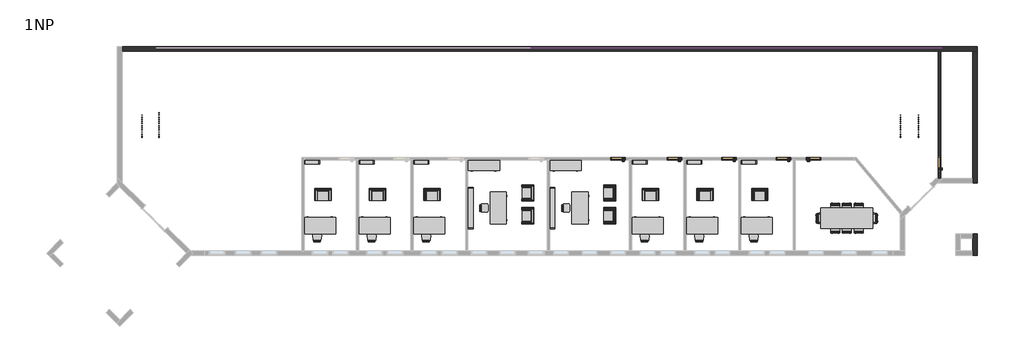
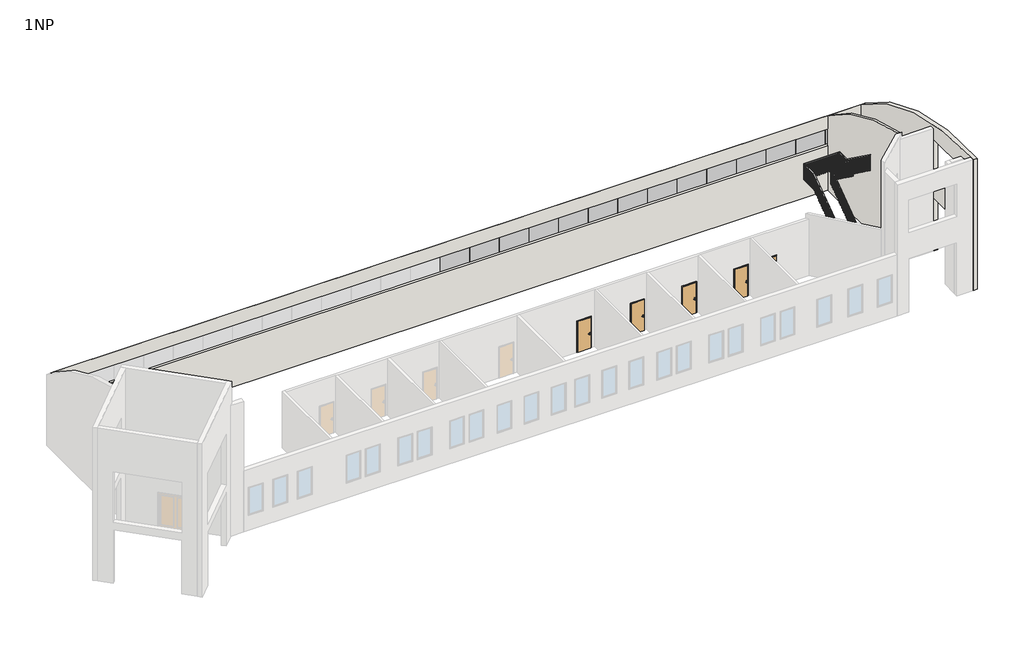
# One storey, part 3 of 3: 45 furniture elements, 14 plates, 6 doors, 4 railings, 3 walls.
"""IFC4 building model written with IfcOpenShell, lengths in millimetres."""

from ifc_helpers import new_model, si_unit, point, frame, frame_2d, origin, place, context, project, spatial, polyline, circle_curve, trimmed, segment, composite_curve, outline, extrude, transform, mapped, element, save
from ifc_brep_helpers import plane_surface, cylinder_surface, advanced_brep
from components import door_900_x_2000_c64c60ef, door_900_x_2000_4c66a93d, chair_desk_4_chair_task_arms_3b363349, chair_desk_5_chair_task_b7f3823b, m_chair_corbu_m_chair_corbu_2764bdef, m_chair_desk_desk_chair_ccc35c8f, m_credenza_1830_x_0610mm_1080a9db, m_desk_1830_x_915mm_d81ff609, m_shelving_0915_x_0254_x_1830mm_1d5e155e, m_shelving_2440_x_0305_x_2134mm_59c1a9e4, table_conference_w_chairs_1200_x_3050mm_930714f4, system_panel_glazed_e7f7cd54, system_panel_glazed_2bdfee25, railing_1100mm_7da75a1e, railing_1100mm_276dff7a, railing_1100mm_749a05fc, railing_1100mm_07c990a1

model = new_model("IFC4")

# Units and contexts
model_context = context("Model", 3, world=origin())
ifc_project = project(units=[si_unit("LENGTHUNIT", "METRE", prefix="MILLI")], contexts=[model_context])

# Site, building, storey
site = spatial("IfcSite", under=ifc_project)
building = spatial("IfcBuilding", under=site)
storey = spatial("IfcBuildingStorey", under=building, Name="1NP", Elevation=0.0)

# Doors
placement = place(None, origin())
door_900_x_2000_shape = door_900_x_2000_c64c60ef(model_context)
element("IfcDoor", 1, ObjectType="Jednokridle oboustrana zaruben : 900 x 2000", at=placement, inside=storey, context=model_context, shape_type="MappedRepresentation", body=[
    mapped(door_900_x_2000_shape, transform((36489.1755273, 462.5551306, 0.0), x_axis=(0.0, -1.0, 0.0), y_axis=(1.0, 0.0, 0.0), z_axis=(0.0, 0.0, 1.0))),
])
element("IfcDoor", 2, ObjectType="Jednokridle oboustrana zaruben : 900 x 2000", at=placement, inside=storey, context=model_context, shape_type="MappedRepresentation", body=[
    mapped(door_900_x_2000_shape, transform((29095.9255273, 791.5551306, 0.0), x_axis=(-1.0, 0.0, 0.0), y_axis=(0.0, -1.0, 0.0), z_axis=(0.0, 0.0, 1.0))),
])
door_900_x_2000_2_shape = door_900_x_2000_4c66a93d(model_context)
element("IfcDoor", 3, ObjectType="Jednokridle oboustrana zaruben : 900 x 2000", at=placement, inside=storey, context=model_context, shape_type="MappedRepresentation", body=[
    mapped(door_900_x_2000_2_shape, transform((24182.4255273, 791.5551306, 0.0), x_axis=(1.0, 0.0, 0.0), y_axis=(0.0, 1.0, 0.0), z_axis=(0.0, 0.0, 1.0))),
])
element("IfcDoor", 4, ObjectType="Jednokridle oboustrana zaruben : 900 x 2000", at=placement, inside=storey, context=model_context, shape_type="MappedRepresentation", body=[
    mapped(door_900_x_2000_2_shape, transform((27382.4255273, 791.5551306, 0.0), x_axis=(1.0, 0.0, 0.0), y_axis=(0.0, 1.0, 0.0), z_axis=(0.0, 0.0, 1.0))),
])
element("IfcDoor", 5, ObjectType="Jednokridle oboustrana zaruben : 900 x 2000", at=placement, inside=storey, context=model_context, shape_type="MappedRepresentation", body=[
    mapped(door_900_x_2000_2_shape, transform((20982.4255273, 791.5551306, 0.0), x_axis=(1.0, 0.0, 0.0), y_axis=(0.0, 1.0, 0.0), z_axis=(0.0, 0.0, 1.0))),
])
element("IfcDoor", 6, ObjectType="Jednokridle oboustrana zaruben : 900 x 2000", at=placement, inside=storey, context=model_context, shape_type="MappedRepresentation", body=[
    mapped(door_900_x_2000_2_shape, transform((17682.4255273, 791.5551306, 0.0), x_axis=(1.0, 0.0, 0.0), y_axis=(0.0, 1.0, 0.0), z_axis=(0.0, 0.0, 1.0))),
])

# Furniture
chair_desk_4_chair_task_arms_shape = chair_desk_4_chair_task_arms_3b363349(model_context)
element("IfcFurniture", 7, ObjectType="Chair - Desk (4) : Chair-Task Arms", at=placement, inside=storey, context=model_context, shape_type="MappedRepresentation", body=[
    mapped(chair_desk_4_chair_task_arms_shape, transform((32615.6301008, -2847.5591131, 0.0), x_axis=(0.0, 1.0, 0.0), y_axis=(-1.0, 0.0, 0.0), z_axis=(0.0, 0.0, 1.0))),
])
element("IfcFurniture", 8, ObjectType="Chair - Desk (4) : Chair-Task Arms", at=placement, inside=storey, context=model_context, shape_type="MappedRepresentation", body=[
    mapped(chair_desk_4_chair_task_arms_shape, transform((29527.7382975, -2565.5774738, 0.0), x_axis=(0.0, -1.0000000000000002, 0.0), y_axis=(1.0000000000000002, 0.0, 0.0), z_axis=(0.0, 0.0, 1.0))),
])
chair_desk_5_chair_task_shape = chair_desk_5_chair_task_b7f3823b(model_context)
element("IfcFurniture", 9, ObjectType="Chair - Desk (5) : Chair-Task", at=placement, inside=storey, context=model_context, shape_type="MappedRepresentation", body=[
    mapped(chair_desk_5_chair_task_shape, transform((31897.6750188, -2087.6223918, 0.0), x_axis=(-1.0, 0.0, 0.0), y_axis=(0.0, -1.0, 0.0), z_axis=(0.0, 0.0, 1.0))),
])
element("IfcFurniture", 10, ObjectType="Chair - Desk (5) : Chair-Task", at=placement, inside=storey, context=model_context, shape_type="MappedRepresentation", body=[
    mapped(chair_desk_5_chair_task_shape, transform((31615.6933794, -3325.5141951, 0.0), x_axis=(1.0, 0.0, 0.0), y_axis=(0.0, 1.0, 0.0), z_axis=(0.0, 0.0, 1.0))),
])
element("IfcFurniture", 11, ObjectType="Chair - Desk (5) : Chair-Task", at=placement, inside=storey, context=model_context, shape_type="MappedRepresentation", body=[
    mapped(chair_desk_5_chair_task_shape, transform((30527.9250188, -2087.6223918, 0.0), x_axis=(-1.0, 0.0, 0.0), y_axis=(0.0, -1.0, 0.0), z_axis=(0.0, 0.0, 1.0))),
])
element("IfcFurniture", 12, ObjectType="Chair - Desk (5) : Chair-Task", at=placement, inside=storey, context=model_context, shape_type="MappedRepresentation", body=[
    mapped(chair_desk_5_chair_task_shape, transform((30245.9433794, -3325.5141951, 0.0), x_axis=(1.0, 0.0, 0.0), y_axis=(0.0, 1.0, 0.0), z_axis=(0.0, 0.0, 1.0))),
])
element("IfcFurniture", 13, ObjectType="Chair - Desk (5) : Chair-Task", at=placement, inside=storey, context=model_context, shape_type="MappedRepresentation", body=[
    mapped(chair_desk_5_chair_task_shape, transform((31212.8000188, -2087.6223918, 0.0), x_axis=(-1.0, 0.0, 0.0), y_axis=(0.0, -1.0, 0.0), z_axis=(0.0, 0.0, 1.0))),
])
element("IfcFurniture", 14, ObjectType="Chair - Desk (5) : Chair-Task", at=placement, inside=storey, context=model_context, shape_type="MappedRepresentation", body=[
    mapped(chair_desk_5_chair_task_shape, transform((30930.8183794, -3325.5141951, 0.0), x_axis=(1.0, 0.0, 0.0), y_axis=(0.0, 1.0, 0.0), z_axis=(0.0, 0.0, 1.0))),
])
m_chair_corbu_m_chair_corbu_shape = m_chair_corbu_m_chair_corbu_2764bdef(model_context)
element("IfcFurniture", 15, ObjectType="M_Chair-Corbu : M_Chair-Corbu", at=placement, inside=storey, context=model_context, shape_type="MappedRepresentation", body=[
    mapped(m_chair_corbu_m_chair_corbu_shape, transform((6189.3517568, -1787.3719186, 0.0), x_axis=(1.0, 0.0, 0.0), y_axis=(0.0, 1.0, 0.0), z_axis=(0.0, 0.0, 1.0))),
])
element("IfcFurniture", 16, ObjectType="M_Chair-Corbu : M_Chair-Corbu", at=placement, inside=storey, context=model_context, shape_type="MappedRepresentation", body=[
    mapped(m_chair_corbu_m_chair_corbu_shape, transform((-210.6482432, -1787.3719186, 0.0), x_axis=(1.0, 0.0, 0.0), y_axis=(0.0, 1.0, 0.0), z_axis=(0.0, 0.0, 1.0))),
])
element("IfcFurniture", 17, ObjectType="M_Chair-Corbu : M_Chair-Corbu", at=placement, inside=storey, context=model_context, shape_type="MappedRepresentation", body=[
    mapped(m_chair_corbu_m_chair_corbu_shape, transform((2989.3517568, -1787.3719186, 0.0), x_axis=(1.0, 0.0, 0.0), y_axis=(0.0, 1.0, 0.0), z_axis=(0.0, 0.0, 1.0))),
])
element("IfcFurniture", 18, ObjectType="M_Chair-Corbu : M_Chair-Corbu", at=placement, inside=storey, context=model_context, shape_type="MappedRepresentation", body=[
    mapped(m_chair_corbu_m_chair_corbu_shape, transform((22189.3517568, -1787.3719186, 0.0), x_axis=(1.0, 0.0, 0.0), y_axis=(0.0, 1.0, 0.0), z_axis=(0.0, 0.0, 1.0))),
])
element("IfcFurniture", 19, ObjectType="M_Chair-Corbu : M_Chair-Corbu", at=placement, inside=storey, context=model_context, shape_type="MappedRepresentation", body=[
    mapped(m_chair_corbu_m_chair_corbu_shape, transform((25389.3517568, -1787.3719186, 0.0), x_axis=(1.0, 0.0, 0.0), y_axis=(0.0, 1.0, 0.0), z_axis=(0.0, 0.0, 1.0))),
])
element("IfcFurniture", 20, ObjectType="M_Chair-Corbu : M_Chair-Corbu", at=placement, inside=storey, context=model_context, shape_type="MappedRepresentation", body=[
    mapped(m_chair_corbu_m_chair_corbu_shape, transform((11895.9484781, -647.2210989, 0.0), x_axis=(0.0, -1.0, 0.0), y_axis=(1.0, 0.0, 0.0), z_axis=(0.0, 0.0, 1.0))),
])
element("IfcFurniture", 21, ObjectType="M_Chair-Corbu : M_Chair-Corbu", at=placement, inside=storey, context=model_context, shape_type="MappedRepresentation", body=[
    mapped(m_chair_corbu_m_chair_corbu_shape, transform((18989.3517568, -1787.3719186, 0.0), x_axis=(1.0, 0.0, 0.0), y_axis=(0.0, 1.0, 0.0), z_axis=(0.0, 0.0, 1.0))),
])
element("IfcFurniture", 22, ObjectType="M_Chair-Corbu : M_Chair-Corbu", at=placement, inside=storey, context=model_context, shape_type="MappedRepresentation", body=[
    mapped(m_chair_corbu_m_chair_corbu_shape, transform((11895.9484781, -1992.4210989, 0.0), x_axis=(0.0, -1.0, 0.0), y_axis=(1.0, 0.0, 0.0), z_axis=(0.0, 0.0, 1.0))),
])
element("IfcFurniture", 23, ObjectType="M_Chair-Corbu : M_Chair-Corbu", at=placement, inside=storey, context=model_context, shape_type="MappedRepresentation", body=[
    mapped(m_chair_corbu_m_chair_corbu_shape, transform((16695.9484781, -647.2210989, 0.0), x_axis=(0.0, -1.0, 0.0), y_axis=(1.0, 0.0, 0.0), z_axis=(0.0, 0.0, 1.0))),
])
element("IfcFurniture", 24, ObjectType="M_Chair-Corbu : M_Chair-Corbu", at=placement, inside=storey, context=model_context, shape_type="MappedRepresentation", body=[
    mapped(m_chair_corbu_m_chair_corbu_shape, transform((16695.9484781, -1992.4210989, 0.0), x_axis=(0.0, -1.0, 0.0), y_axis=(1.0, 0.0, 0.0), z_axis=(0.0, 0.0, 1.0))),
])
m_chair_desk_desk_chair_shape = m_chair_desk_desk_chair_ccc35c8f(model_context)
element("IfcFurniture", 25, ObjectType="M_Chair-Desk : Desk Chair", at=placement, inside=storey, context=model_context, shape_type="MappedRepresentation", body=[
    mapped(m_chair_desk_desk_chair_shape, transform((19.9255273, -4017.6948694, 0.0), x_axis=(1.0, 0.0, 0.0), y_axis=(0.0, 1.0, 0.0), z_axis=(0.0, 0.0, 1.0))),
])
element("IfcFurniture", 26, ObjectType="M_Chair-Desk : Desk Chair", at=placement, inside=storey, context=model_context, shape_type="MappedRepresentation", body=[
    mapped(m_chair_desk_desk_chair_shape, transform((3219.9255273, -4017.6948694, 0.0), x_axis=(1.0, 0.0, 0.0), y_axis=(0.0, 1.0, 0.0), z_axis=(0.0, 0.0, 1.0))),
])
element("IfcFurniture", 27, ObjectType="M_Chair-Desk : Desk Chair", at=placement, inside=storey, context=model_context, shape_type="MappedRepresentation", body=[
    mapped(m_chair_desk_desk_chair_shape, transform((6419.9255273, -4017.6948694, 0.0), x_axis=(1.0, 0.0, 0.0), y_axis=(0.0, 1.0, 0.0), z_axis=(0.0, 0.0, 1.0))),
])
element("IfcFurniture", 28, ObjectType="M_Chair-Desk : Desk Chair", at=placement, inside=storey, context=model_context, shape_type="MappedRepresentation", body=[
    mapped(m_chair_desk_desk_chair_shape, transform((22419.9255273, -4017.6948694, 0.0), x_axis=(1.0, 0.0, 0.0), y_axis=(0.0, 1.0, 0.0), z_axis=(0.0, 0.0, 1.0))),
])
element("IfcFurniture", 29, ObjectType="M_Chair-Desk : Desk Chair", at=placement, inside=storey, context=model_context, shape_type="MappedRepresentation", body=[
    mapped(m_chair_desk_desk_chair_shape, transform((25619.9255273, -4017.6948694, 0.0), x_axis=(1.0, 0.0, 0.0), y_axis=(0.0, 1.0, 0.0), z_axis=(0.0, 0.0, 1.0))),
])
element("IfcFurniture", 30, ObjectType="M_Chair-Desk : Desk Chair", at=placement, inside=storey, context=model_context, shape_type="MappedRepresentation", body=[
    mapped(m_chair_desk_desk_chair_shape, transform((9635.1978774, -2107.9948694, 0.0), x_axis=(0.0, -1.0, 0.0), y_axis=(1.0, 0.0, 0.0), z_axis=(0.0, 0.0, 1.0))),
])
element("IfcFurniture", 31, ObjectType="M_Chair-Desk : Desk Chair", at=placement, inside=storey, context=model_context, shape_type="MappedRepresentation", body=[
    mapped(m_chair_desk_desk_chair_shape, transform((19219.9255273, -4017.6948694, 0.0), x_axis=(1.0, 0.0, 0.0), y_axis=(0.0, 1.0, 0.0), z_axis=(0.0, 0.0, 1.0))),
])
element("IfcFurniture", 32, ObjectType="M_Chair-Desk : Desk Chair", at=placement, inside=storey, context=model_context, shape_type="MappedRepresentation", body=[
    mapped(m_chair_desk_desk_chair_shape, transform((14435.1978774, -2107.9948694, 0.0), x_axis=(0.0, -1.0, 0.0), y_axis=(1.0, 0.0, 0.0), z_axis=(0.0, 0.0, 1.0))),
])
m_credenza_1830_x_0610mm_shape = m_credenza_1830_x_0610mm_1080a9db(model_context)
element("IfcFurniture", 33, ObjectType="M_Credenza : 1830 x 0610mm", at=placement, inside=storey, context=model_context, shape_type="MappedRepresentation", body=[
    mapped(m_credenza_1830_x_0610mm_shape, transform((9713.881265, 412.7248027, 0.0), x_axis=(1.0, 0.0, 0.0), y_axis=(0.0, 1.0, 0.0), z_axis=(0.0, 0.0, 1.0))),
])
element("IfcFurniture", 34, ObjectType="M_Credenza : 1830 x 0610mm", at=placement, inside=storey, context=model_context, shape_type="MappedRepresentation", body=[
    mapped(m_credenza_1830_x_0610mm_shape, transform((14513.881265, 412.7248027, 0.0), x_axis=(1.0, 0.0, 0.0), y_axis=(0.0, 1.0, 0.0), z_axis=(0.0, 0.0, 1.0))),
])
m_desk_1830_x_915mm_shape = m_desk_1830_x_915mm_d81ff609(model_context)
element("IfcFurniture", 35, ObjectType="M_Desk : 1830 x 915mm", at=placement, inside=storey, context=model_context, shape_type="MappedRepresentation", body=[
    mapped(m_desk_1830_x_915mm_shape, transform((-741.5744727, -3592.6948694, 0.0), x_axis=(1.0, 0.0, 0.0), y_axis=(0.0, 1.0, 0.0), z_axis=(0.0, 0.0, 1.0))),
])
element("IfcFurniture", 36, ObjectType="M_Desk : 1830 x 915mm", at=placement, inside=storey, context=model_context, shape_type="MappedRepresentation", body=[
    mapped(m_desk_1830_x_915mm_shape, transform((2458.4255273, -3592.6948694, 0.0), x_axis=(1.0, 0.0, 0.0), y_axis=(0.0, 1.0, 0.0), z_axis=(0.0, 0.0, 1.0))),
])
element("IfcFurniture", 37, ObjectType="M_Desk : 1830 x 915mm", at=placement, inside=storey, context=model_context, shape_type="MappedRepresentation", body=[
    mapped(m_desk_1830_x_915mm_shape, transform((5658.4255273, -3592.6948694, 0.0), x_axis=(1.0, 0.0, 0.0), y_axis=(0.0, 1.0, 0.0), z_axis=(0.0, 0.0, 1.0))),
])
element("IfcFurniture", 38, ObjectType="M_Desk : 1830 x 915mm", at=placement, inside=storey, context=model_context, shape_type="MappedRepresentation", body=[
    mapped(m_desk_1830_x_915mm_shape, transform((21658.4255273, -3592.6948694, 0.0), x_axis=(1.0, 0.0, 0.0), y_axis=(0.0, 1.0, 0.0), z_axis=(0.0, 0.0, 1.0))),
])
element("IfcFurniture", 39, ObjectType="M_Desk : 1830 x 915mm", at=placement, inside=storey, context=model_context, shape_type="MappedRepresentation", body=[
    mapped(m_desk_1830_x_915mm_shape, transform((24858.4255273, -3592.6948694, 0.0), x_axis=(1.0, 0.0, 0.0), y_axis=(0.0, 1.0, 0.0), z_axis=(0.0, 0.0, 1.0))),
])
element("IfcFurniture", 40, ObjectType="M_Desk : 1830 x 915mm", at=placement, inside=storey, context=model_context, shape_type="MappedRepresentation", body=[
    mapped(m_desk_1830_x_915mm_shape, transform((10176.162903, -1192.9948694, 0.0), x_axis=(0.0, -1.0, 0.0), y_axis=(1.0, 0.0, 0.0), z_axis=(0.0, 0.0, 1.0))),
])
element("IfcFurniture", 41, ObjectType="M_Desk : 1830 x 915mm", at=placement, inside=storey, context=model_context, shape_type="MappedRepresentation", body=[
    mapped(m_desk_1830_x_915mm_shape, transform((18458.4255273, -3592.6948694, 0.0), x_axis=(1.0, 0.0, 0.0), y_axis=(0.0, 1.0, 0.0), z_axis=(0.0, 0.0, 1.0))),
])
element("IfcFurniture", 42, ObjectType="M_Desk : 1830 x 915mm", at=placement, inside=storey, context=model_context, shape_type="MappedRepresentation", body=[
    mapped(m_desk_1830_x_915mm_shape, transform((14976.162903, -1192.9948694, 0.0), x_axis=(0.0, -1.0, 0.0), y_axis=(1.0, 0.0, 0.0), z_axis=(0.0, 0.0, 1.0))),
])
m_shelving_0915_x_0254_x_1830mm_shape = m_shelving_0915_x_0254_x_1830mm_1d5e155e(model_context)
element("IfcFurniture", 43, ObjectType="M_Shelving : 0915 x 0254 x 1830mm", at=placement, inside=storey, context=model_context, shape_type="MappedRepresentation", body=[
    mapped(m_shelving_0915_x_0254_x_1830mm_shape, transform((-284.0744727, 290.5051306, 0.0), x_axis=(-1.0, 0.0, 0.0), y_axis=(0.0, -1.0, 0.0), z_axis=(0.0, 0.0, 1.0))),
])
element("IfcFurniture", 44, ObjectType="M_Shelving : 0915 x 0254 x 1830mm", at=placement, inside=storey, context=model_context, shape_type="MappedRepresentation", body=[
    mapped(m_shelving_0915_x_0254_x_1830mm_shape, transform((2915.9255273, 290.5051306, 0.0), x_axis=(-1.0, 0.0, 0.0), y_axis=(0.0, -1.0, 0.0), z_axis=(0.0, 0.0, 1.0))),
])
element("IfcFurniture", 45, ObjectType="M_Shelving : 0915 x 0254 x 1830mm", at=placement, inside=storey, context=model_context, shape_type="MappedRepresentation", body=[
    mapped(m_shelving_0915_x_0254_x_1830mm_shape, transform((6115.9255273, 290.5051306, 0.0), x_axis=(-1.0, 0.0, 0.0), y_axis=(0.0, -1.0, 0.0), z_axis=(0.0, 0.0, 1.0))),
])
element("IfcFurniture", 46, ObjectType="M_Shelving : 0915 x 0254 x 1830mm", at=placement, inside=storey, context=model_context, shape_type="MappedRepresentation", body=[
    mapped(m_shelving_0915_x_0254_x_1830mm_shape, transform((22115.9255273, 290.5051306, 0.0), x_axis=(-1.0, 0.0, 0.0), y_axis=(0.0, -1.0, 0.0), z_axis=(0.0, 0.0, 1.0))),
])
element("IfcFurniture", 47, ObjectType="M_Shelving : 0915 x 0254 x 1830mm", at=placement, inside=storey, context=model_context, shape_type="MappedRepresentation", body=[
    mapped(m_shelving_0915_x_0254_x_1830mm_shape, transform((25315.9255273, 290.5051306, 0.0), x_axis=(-1.0, 0.0, 0.0), y_axis=(0.0, -1.0, 0.0), z_axis=(0.0, 0.0, 1.0))),
])
element("IfcFurniture", 48, ObjectType="M_Shelving : 0915 x 0254 x 1830mm", at=placement, inside=storey, context=model_context, shape_type="MappedRepresentation", body=[
    mapped(m_shelving_0915_x_0254_x_1830mm_shape, transform((18915.9255273, 290.5051306, 0.0), x_axis=(-1.0, 0.0, 0.0), y_axis=(0.0, -1.0, 0.0), z_axis=(0.0, 0.0, 1.0))),
])
m_shelving_2440_x_0305_x_2134mm_shape = m_shelving_2440_x_0305_x_2134mm_59c1a9e4(model_context)
element("IfcFurniture", 49, ObjectType="M_Shelving : 2440 x 0305 x 2134mm", at=placement, inside=storey, context=model_context, shape_type="MappedRepresentation", body=[
    mapped(m_shelving_2440_x_0305_x_2134mm_shape, transform((9315.7255273, -2107.9948694, 0.0), x_axis=(0.0, -1.0, 0.0), y_axis=(1.0, 0.0, 0.0), z_axis=(0.0, 0.0, 1.0))),
])
element("IfcFurniture", 50, ObjectType="M_Shelving : 2440 x 0305 x 2134mm", at=placement, inside=storey, context=model_context, shape_type="MappedRepresentation", body=[
    mapped(m_shelving_2440_x_0305_x_2134mm_shape, transform((14115.7255273, -2107.9948694, 0.0), x_axis=(0.0, -1.0, 0.0), y_axis=(1.0, 0.0, 0.0), z_axis=(0.0, 0.0, 1.0))),
])
table_conference_w_chairs_1200_x_3050mm_shape = table_conference_w_chairs_1200_x_3050mm_930714f4(model_context)
element("IfcFurniture", 51, ObjectType="Table - Conference w Chairs : 1200 x 3050mm", at=placement, inside=storey, context=model_context, shape_type="MappedRepresentation", body=[
    mapped(table_conference_w_chairs_1200_x_3050mm_shape, transform((31071.6841991, -2706.5682935, 0.0), x_axis=(-1.0, 0.0, 0.0), y_axis=(0.0, -1.0, 0.0), z_axis=(0.0, 0.0, 1.0))),
])

# Plates
system_panel_glazed_shape = system_panel_glazed_e7f7cd54(model_context)
element("IfcPlate", 52, ObjectType="System Panel : Glazed", at=placement, inside=storey, context=model_context, shape_type="MappedRepresentation", body=[
    mapped(system_panel_glazed_shape, transform((13464.1755273, 7241.5551306, 2916.2475184), x_axis=(1.0, 0.0, 0.0), y_axis=(0.0, 1.0, 0.0), z_axis=(0.0, 0.0, 1.0))),
])
element("IfcPlate", 53, ObjectType="System Panel : Glazed", at=placement, inside=storey, context=model_context, shape_type="MappedRepresentation", body=[
    mapped(system_panel_glazed_shape, transform((15294.1755273, 7241.5551306, 2916.2475184), x_axis=(1.0, 0.0, 0.0), y_axis=(0.0, 1.0, 0.0), z_axis=(0.0, 0.0, 1.0))),
])
element("IfcPlate", 54, ObjectType="System Panel : Glazed", at=placement, inside=storey, context=model_context, shape_type="MappedRepresentation", body=[
    mapped(system_panel_glazed_shape, transform((17124.1755273, 7241.5551306, 2916.2475184), x_axis=(1.0, 0.0, 0.0), y_axis=(0.0, 1.0, 0.0), z_axis=(0.0, 0.0, 1.0))),
])
element("IfcPlate", 55, ObjectType="System Panel : Glazed", at=placement, inside=storey, context=model_context, shape_type="MappedRepresentation", body=[
    mapped(system_panel_glazed_shape, transform((18954.1755273, 7241.5551306, 2916.2475184), x_axis=(1.0, 0.0, 0.0), y_axis=(0.0, 1.0, 0.0), z_axis=(0.0, 0.0, 1.0))),
])
element("IfcPlate", 56, ObjectType="System Panel : Glazed", at=placement, inside=storey, context=model_context, shape_type="MappedRepresentation", body=[
    mapped(system_panel_glazed_shape, transform((20784.1755273, 7241.5551306, 2916.2475184), x_axis=(1.0, 0.0, 0.0), y_axis=(0.0, 1.0, 0.0), z_axis=(0.0, 0.0, 1.0))),
])
element("IfcPlate", 57, ObjectType="System Panel : Glazed", at=placement, inside=storey, context=model_context, shape_type="MappedRepresentation", body=[
    mapped(system_panel_glazed_shape, transform((22614.1755273, 7241.5551306, 2916.2475184), x_axis=(1.0, 0.0, 0.0), y_axis=(0.0, 1.0, 0.0), z_axis=(0.0, 0.0, 1.0))),
])
element("IfcPlate", 58, ObjectType="System Panel : Glazed", at=placement, inside=storey, context=model_context, shape_type="MappedRepresentation", body=[
    mapped(system_panel_glazed_shape, transform((24444.1755273, 7241.5551306, 2916.2475184), x_axis=(1.0, 0.0, 0.0), y_axis=(0.0, 1.0, 0.0), z_axis=(0.0, 0.0, 1.0))),
])
element("IfcPlate", 59, ObjectType="System Panel : Glazed", at=placement, inside=storey, context=model_context, shape_type="MappedRepresentation", body=[
    mapped(system_panel_glazed_shape, transform((26274.1755273, 7241.5551306, 2916.2475184), x_axis=(1.0, 0.0, 0.0), y_axis=(0.0, 1.0, 0.0), z_axis=(0.0, 0.0, 1.0))),
])
element("IfcPlate", 60, ObjectType="System Panel : Glazed", at=placement, inside=storey, context=model_context, shape_type="MappedRepresentation", body=[
    mapped(system_panel_glazed_shape, transform((28104.1755273, 7241.5551306, 2916.2475184), x_axis=(1.0, 0.0, 0.0), y_axis=(0.0, 1.0, 0.0), z_axis=(0.0, 0.0, 1.0))),
])
element("IfcPlate", 61, ObjectType="System Panel : Glazed", at=placement, inside=storey, context=model_context, shape_type="MappedRepresentation", body=[
    mapped(system_panel_glazed_shape, transform((29934.1755273, 7241.5551306, 2916.2475184), x_axis=(1.0, 0.0, 0.0), y_axis=(0.0, 1.0, 0.0), z_axis=(0.0, 0.0, 1.0))),
])
element("IfcPlate", 62, ObjectType="System Panel : Glazed", at=placement, inside=storey, context=model_context, shape_type="MappedRepresentation", body=[
    mapped(system_panel_glazed_shape, transform((31764.1755273, 7241.5551306, 2916.2475184), x_axis=(1.0, 0.0, 0.0), y_axis=(0.0, 1.0, 0.0), z_axis=(0.0, 0.0, 1.0))),
])
element("IfcPlate", 63, ObjectType="System Panel : Glazed", at=placement, inside=storey, context=model_context, shape_type="MappedRepresentation", body=[
    mapped(system_panel_glazed_shape, transform((33594.1755273, 7241.5551306, 2916.2475184), x_axis=(1.0, 0.0, 0.0), y_axis=(0.0, 1.0, 0.0), z_axis=(0.0, 0.0, 1.0))),
])
element("IfcPlate", 64, ObjectType="System Panel : Glazed", at=placement, inside=storey, context=model_context, shape_type="MappedRepresentation", body=[
    mapped(system_panel_glazed_shape, transform((35424.1755273, 7241.5551306, 2916.2475184), x_axis=(1.0, 0.0, 0.0), y_axis=(0.0, 1.0, 0.0), z_axis=(0.0, 0.0, 1.0))),
])
system_panel_glazed_2_shape = system_panel_glazed_2bdfee25(model_context)
element("IfcPlate", 65, ObjectType="System Panel : Glazed", at=placement, inside=storey, context=model_context, shape_type="MappedRepresentation", body=[
    mapped(system_panel_glazed_2_shape, transform((36464.1755273, 7241.5551306, 2916.2475184), x_axis=(1.0, 0.0, 0.0), y_axis=(0.0, 1.0, 0.0), z_axis=(0.0, 0.0, 1.0))),
])

# Railings
railing_1100mm_shape = railing_1100mm_7da75a1e(model_context)
element("IfcRailing", 66, ObjectType="1100mm", at=placement, inside=storey, context=model_context, shape_type="MappedRepresentation", body=[
    mapped(railing_1100mm_shape, transform((0.0, 0.0, 0.0), x_axis=(1.0, 0.0, 0.0), y_axis=(0.0, 1.0, 0.0), z_axis=(0.0, 0.0, 1.0))),
])
railing_1100mm_2_shape = railing_1100mm_276dff7a(model_context)
element("IfcRailing", 67, ObjectType="1100mm", at=placement, inside=storey, context=model_context, shape_type="MappedRepresentation", body=[
    mapped(railing_1100mm_2_shape, transform((0.0, 0.0, 0.0), x_axis=(1.0, 0.0, 0.0), y_axis=(0.0, 1.0, 0.0), z_axis=(0.0, 0.0, 1.0))),
])
railing_1100mm_3_shape = railing_1100mm_749a05fc(model_context)
element("IfcRailing", 68, ObjectType="1100mm", at=placement, inside=storey, context=model_context, shape_type="MappedRepresentation", body=[
    mapped(railing_1100mm_3_shape, transform((0.0, 0.0, 0.0), x_axis=(1.0, 0.0, 0.0), y_axis=(0.0, 1.0, 0.0), z_axis=(0.0, 0.0, 1.0))),
])
railing_1100mm_4_shape = railing_1100mm_07c990a1(model_context)
element("IfcRailing", 69, ObjectType="1100mm", at=placement, inside=storey, context=model_context, shape_type="MappedRepresentation", body=[
    mapped(railing_1100mm_4_shape, transform((0.0, 0.0, 0.0), x_axis=(1.0, 0.0, 0.0), y_axis=(0.0, 1.0, 0.0), z_axis=(0.0, 0.0, 1.0))),
])

# Walls
element("IfcWall", 70, ObjectType="Exterior - EIFS on Mtl. Stud", at=placement, inside=storey, context=model_context, shape_type="AdvancedBrep", body=[
    advanced_brep(
    [(-11410.8244727, 7108.0551306, 0.0), (36419.9255273, 7108.0551306, 0.0), (36558.4255273, 7108.0551306, 0.0), (38455.6755273, 7108.0551306, 0.0), (38722.6755273, 7108.0551306, 0.0), (38722.6755273, 7108.0551306, 4858.4183068), (38455.6755273, 7108.0551306, 4858.4183068), (36558.4255273, 7108.0551306, 4858.4183068), (36419.9255273, 7108.0551306, 4858.4183068), (-11410.8244727, 7108.0551306, 4858.4183068), (-9410.8244727, 7108.0551306, 2916.2475184), (-9410.8244727, 7108.0551306, 4000.0), (36589.1755273, 7108.0551306, 4000.0), (36589.1755273, 7108.0551306, 2916.2475184), (38722.6755273, 7375.0551306, 0.0), (-11410.8244727, 7375.0551306, 0.0), (-11410.8244727, 7375.0551306, 4647.9646014), (38722.6755273, 7375.0551306, 4647.9646014), (-9410.8244727, 7375.0551306, 4000.0), (-9410.8244727, 7375.0551306, 2916.2475184), (36589.1755273, 7375.0551306, 2916.2475184), (36589.1755273, 7375.0551306, 4000.0)],
    [
        (0, 1),
        (1, 2),
        (2, 3),
        (3, 4),
        (4, 5),
        (5, 6),
        (6, 7),
        (7, 8),
        (8, 9),
        (9, 0),
        (10, 11),
        (11, 12),
        (12, 13),
        (13, 10),
        (14, 15),
        (15, 16),
        (16, 17),
        (17, 14),
        (18, 19),
        (19, 20),
        (20, 21),
        (21, 18),
        (0, 15),
        (14, 4),
        (17, 5, circle_curve(frame((38722.6755273, -3782.5530793, -9232.9575956), z_axis=(1.0, 0.0, 0.0), x_axis=(0.0, -1.0, 0.0)), 17809.3296337)),
        (9, 16, circle_curve(frame((-11410.8244727, -3782.5530793, -9232.9575956), z_axis=(-1.0, 0.0, 0.0), x_axis=(0.0, -1.0, 0.0)), 17809.3296337)),
        (10, 19),
        (18, 11),
        (21, 12),
        (20, 13),
    ],
    [
        plane_surface(frame((-5544.3244727, 7108.0551306, 0.0), z_axis=(0.0, -1.0, 0.0), x_axis=(1.0, 0.0, 0.0))),
        plane_surface(frame((-5544.3244727, 7375.0551306, 0.0), z_axis=(0.0, 1.0, 0.0), x_axis=(-1.0, 0.0, 0.0))),
        plane_surface(frame((-11544.3244727, 7108.0551306, 0.0), z_axis=(0.0, 0.0, -1.0), x_axis=(0.0, 1.0, 0.0))),
        plane_surface(frame((38722.6755273, 5741.5551306, 0.0), z_axis=(1.0, 0.0, 0.0), x_axis=(0.0, 1.0, 0.0))),
        plane_surface(frame((-11410.8244727, -6258.4448694, 0.0), z_axis=(-1.0, 0.0, 0.0), x_axis=(0.0, 1.0, 0.0))),
        cylinder_surface(frame((39922.6755273, -3782.5530793, -9232.9575956), z_axis=(1.0, 0.0, 0.0), x_axis=(0.0, -1.0, 0.0)), 17809.3296337),
        plane_surface(frame((-9410.8244727, 7527.4551306, 2916.2475184), z_axis=(1.0, 0.0, 0.0), x_axis=(0.0, -1.0, 0.0))),
        plane_surface(frame((-9410.8244727, 7527.4551306, 4000.0), z_axis=(0.0, 0.0, -1.0), x_axis=(0.0, -1.0, 0.0))),
        plane_surface(frame((36589.1755273, 7527.4551306, 4000.0), z_axis=(-1.0, 0.0, 0.0), x_axis=(0.0, -1.0, 0.0))),
        plane_surface(frame((36589.1755273, 7527.4551306, 2916.2475184), z_axis=(0.0, 0.0, 1.0), x_axis=(0.0, -1.0, 0.0))),
    ],
    [
        (0, [[1, 2, 3, 4, 5, 6, 7, 8, 9, 10], [11, 12, 13, 14]]),
        (1, [[15, 16, 17, 18], [19, 20, 21, 22]]),
        (2, [[-4, -3, -2, -1, 23, -15, 24]]),
        (3, [[-5, -24, -18, 25]]),
        (4, [[-10, 26, -16, -23]]),
        (5, [[-9, -8, -7, -6, -25, -17, -26]]),
        (6, [[27, -19, 28, -11]]),
        (7, [[-28, -22, 29, -12]]),
        (8, [[-29, -21, 30, -13]]),
        (9, [[-27, -14, -30, -20]]),
    ],
),
])
element("IfcWall", 71, ObjectType="Exterior - EIFS on Mtl. Stud", at=placement, inside=storey, context=model_context, shape_type="AdvancedBrep", body=[
    advanced_brep(
    [(38455.6755273, 7108.0551306, 0.0), (38455.6755273, -374.9448694, 0.0), (38455.6755273, -641.9448694, 0.0), (38455.6755273, -641.9448694, 3500.0), (38455.6755273, -3624.9448694, 3500.0), (38455.6755273, -3624.9448694, 0.0), (38455.6755273, -3891.9448694, 0.0), (38455.6755273, -4624.9448694, 0.0), (38455.6755273, -4891.9448694, 0.0), (38455.6755273, -4891.9448694, 8541.7849302), (38455.6755273, -4624.9249558, 8556.4388364), (38455.6755273, 7108.0551306, 4858.4183068), (38455.6755273, -641.9448694, 5200.0), (38455.6755273, -641.9448694, 7300.0), (38455.6755273, -3624.9448694, 7300.0), (38455.6755273, -3624.9448694, 5200.0), (38722.6755273, 7108.0551306, 0.0), (38722.6755273, 7108.0551306, 4858.4183068), (38722.6755273, -4891.9448694, 8541.7849302), (38722.6755273, -4891.9448694, 0.0), (38722.6755273, -3624.9448694, 0.0), (38722.6755273, -3624.9448694, 3500.0), (38722.6755273, -641.9448694, 3500.0), (38722.6755273, -641.9448694, 0.0), (38722.6755273, -641.9448694, 5200.0), (38722.6755273, -3624.9448694, 5200.0), (38722.6755273, -3624.9448694, 7300.0), (38722.6755273, -641.9448694, 7300.0)],
    [
        (0, 1),
        (1, 2),
        (2, 3),
        (3, 4),
        (4, 5),
        (5, 6),
        (6, 7),
        (7, 8),
        (8, 9),
        (9, 10, circle_curve(frame((38455.6755273, -3782.5530793, -9232.9575956), z_axis=(-1.0, 0.0, 0.0), x_axis=(0.0, -1.0, 0.0)), 17809.3296337)),
        (10, 11, circle_curve(frame((38455.6755273, -3782.5530793, -9232.9575956), z_axis=(-1.0, 0.0, 0.0), x_axis=(0.0, -1.0, 0.0)), 17809.3294594)),
        (11, 0),
        (12, 13),
        (13, 14),
        (14, 15),
        (15, 12),
        (16, 17),
        (17, 18, circle_curve(frame((38722.6755273, -3782.5530793, -9232.9575956), z_axis=(1.0, 0.0, 0.0), x_axis=(0.0, -1.0, 0.0)), 17809.3296337)),
        (18, 19),
        (19, 20),
        (20, 21),
        (21, 22),
        (22, 23),
        (23, 16),
        (24, 25),
        (25, 26),
        (26, 27),
        (27, 24),
        (0, 16),
        (23, 2),
        (3, 22),
        (21, 4),
        (5, 20),
        (19, 8),
        (13, 27),
        (26, 14),
        (15, 25),
        (24, 12),
        (18, 9),
        (11, 17),
    ],
    [
        plane_surface(frame((38455.6755273, 5741.5551306, 0.0), z_axis=(-1.0, 0.0, 0.0), x_axis=(0.0, -1.0, 0.0))),
        plane_surface(frame((38722.6755273, 5741.5551306, 0.0), z_axis=(1.0, 0.0, 0.0), x_axis=(0.0, 1.0, 0.0))),
        plane_surface(frame((38455.6755273, 7241.5551306, 0.0), z_axis=(0.0, 0.0, -1.0), x_axis=(1.0, 0.0, 0.0))),
        plane_surface(frame((38455.6755273, -508.4448694, 3500.0), z_axis=(0.0, 0.0, -1.0), x_axis=(1.0, 0.0, 0.0))),
        plane_surface(frame((38455.6755273, -3758.4448694, 0.0), z_axis=(0.0, 0.0, -1.0), x_axis=(1.0, 0.0, 0.0))),
        plane_surface(frame((38455.6755273, -508.4448694, 7300.0), z_axis=(0.0, 0.0, -1.0), x_axis=(1.0, 0.0, 0.0))),
        plane_surface(frame((38455.6755273, -3758.4448694, 5200.0), z_axis=(0.0, 0.0, 1.0), x_axis=(1.0, 0.0, 0.0))),
        plane_surface(frame((12455.6755273, -4891.9448694, 0.0), z_axis=(0.0, -1.0, 0.0), x_axis=(1.0, 0.0, 0.0))),
        plane_surface(frame((-5544.3244727, 7108.0551306, 0.0), z_axis=(0.0, 1.0, 0.0), x_axis=(1.0, 0.0, 0.0))),
        plane_surface(frame((38455.6755273, -641.9448694, 0.0), z_axis=(0.0, -1.0, 0.0), x_axis=(1.0, 0.0, 0.0))),
        plane_surface(frame((37555.6755273, -3624.9448694, 0.0), z_axis=(0.0, 1.0, 0.0), x_axis=(-1.0, 0.0, 0.0))),
        cylinder_surface(frame((39922.6755273, -3782.5530793, -9232.9575956), z_axis=(1.0, 0.0, 0.0), x_axis=(0.0, -1.0, 0.0)), 17809.3296337),
    ],
    [
        (0, [[1, 2, 3, 4, 5, 6, 7, 8, 9, 10, 11, 12], [13, 14, 15, 16]]),
        (1, [[17, 18, 19, 20, 21, 22, 23, 24], [25, 26, 27, 28]]),
        (2, [[-2, -1, 29, -24, 30]]),
        (3, [[-4, 31, -22, 32]]),
        (4, [[-8, -7, -6, 33, -20, 34]]),
        (5, [[-14, 35, -27, 36]]),
        (6, [[-16, 37, -25, 38]]),
        (7, [[-9, -34, -19, 39]]),
        (8, [[-12, 40, -17, -29]]),
        (9, [[-3, -30, -23, -31]]),
        (9, [[-13, -38, -28, -35]]),
        (10, [[-5, -32, -21, -33]]),
        (10, [[-15, -36, -26, -37]]),
        (11, [[-11, -10, -39, -18, -40]]),
    ],
),
])
element("IfcWall", 72, ObjectType="Interior - 138mm Partition (1-hr)", at=placement, inside=storey, context=model_context, shape_type="SweptSolid", body=[
    extrude(outline(composite_curve([segment(polyline([(32.5551306, 2050.0), (32.5551306, 0.0), (-374.9448694, 0.0), (-374.9448694, 8247.3292525)]), True, "CONTINUOUS"), segment(trimmed(circle_curve(frame_2d((-3782.5530793, -9232.9575956)), 17809.3296337), [point((-374.9448694, 8247.3292525))], [point((7108.0551306, 4858.4183068))], False, "CARTESIAN"), True, "CONTINUOUS"), segment(polyline([(7108.0551306, 4858.4183068), (7108.0551306, 0.0), (932.5551306, 0.0), (932.5551306, 2050.0), (32.5551306, 2050.0)]), True, "CONTINUOUS")], self_intersect=False)), frame((36419.9255273, 0.0, 0.0), z_axis=(1.0, 0.0, 0.0), x_axis=(0.0, 1.0, 0.0)), (0.0, 0.0, 1.0), 138.5),
])

save(model, "model.ifc")
